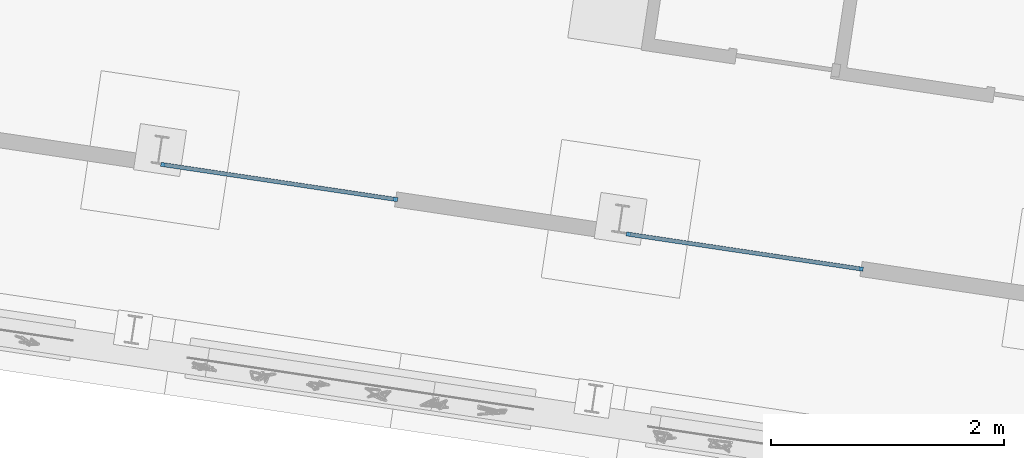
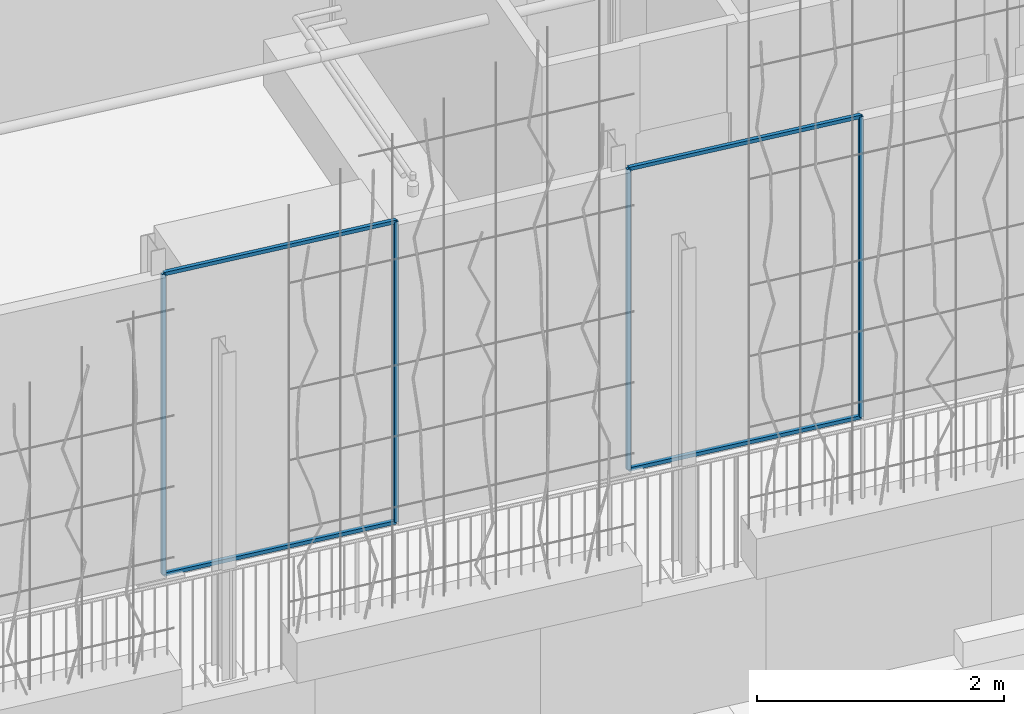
# One storey, part 63 of 142: 8 members.
"""IFC4 building model written with IfcOpenShell, lengths in metres."""

from ifc_helpers import new_model, si_unit, direction, frame, origin_with_axes, place, context, subcontext, project, spatial, rectangle, extrude, material, material_profile, profile_set, profile_usage, type_object, element, save


model = new_model("IFC4")

# Units and contexts
model_context = context("Model", 3, precision=1e-05, world=origin_with_axes(), true_north=direction((0.0, 1.0)))
body_context = subcontext(model_context, "Body", "Model", "MODEL_VIEW")
ifc_project = project(units=[si_unit("VOLUMEUNIT", "CUBIC_METRE"), si_unit("LENGTHUNIT", "METRE"), si_unit("AREAUNIT", "SQUARE_METRE")], contexts=[model_context])

# Site, building, storey
site_placement = place(None, origin_with_axes())
site = spatial("IfcSite", under=ifc_project, at=site_placement, Name="Lares · Rua das Mercês · artigo 4771")
building_placement = place(site_placement, frame((12.0, 10.2, 13.9), z_axis=(0.0, 0.0, 1.0), x_axis=(0.989015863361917, -0.147809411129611, 0.0)))
building = spatial("IfcBuilding", under=site, at=building_placement, Name="Casa Sobreposta")
storey_placement = place(building_placement, origin_with_axes())
storey = spatial("IfcBuildingStorey", under=building, at=storey_placement, Name="00 · Habitação e estacionamento", Elevation=13.9)

# Members
ifc_material = material(Name="Aço pintado / Stahl lackiert", Category="steel")
ifc_material_profile = material_profile(ifc_material, rectangle(XDim=0.035, YDim=0.035))
ifc_profile_set = profile_set([ifc_material_profile], Name="R0.035")
ifc_profile_usage_1 = profile_usage(ifc_profile_set)
member_type = type_object("IfcMemberType", Name="R0.035 / steel", PredefinedType="NOTDEFINED", material=ifc_profile_set)
member_1_placement = place(storey_placement, frame((4.04266666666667, 0.0, 0.0), z_axis=(0.0, 0.0, 1.0), x_axis=(1.0, 0.0, 0.0)))
element("IfcMember", 1, at=member_1_placement, inside=storey, type_object=member_type, material=ifc_profile_usage_1, Name="Folha de correr sul 2 · montante", context=body_context, shape_type="SweptSolid", body=[
    extrude(rectangle(XDim=0.035, YDim=0.035), origin_with_axes(), (0.0, 0.0, 1.0), 2.968),
])
ifc_profile_usage_2 = profile_usage(ifc_profile_set)
member_2_placement = place(storey_placement, frame((6.064, 0.0, 0.0), z_axis=(0.0, 0.0, 1.0), x_axis=(1.0, 0.0, 0.0)))
element("IfcMember", 2, at=member_2_placement, inside=storey, type_object=member_type, material=ifc_profile_usage_2, Name="Folha de correr sul 2 · montante", context=body_context, shape_type="SweptSolid", body=[
    extrude(rectangle(XDim=0.035, YDim=0.035), origin_with_axes(), (0.0, 0.0, 1.0), 2.968),
])
ifc_profile_usage_3 = profile_usage(ifc_profile_set)
member_3_placement = place(storey_placement, frame((4.04266666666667, 0.0, 0.0), z_axis=(1.0, 0.0, 0.0), x_axis=(0.0, -1.0, 0.0)))
element("IfcMember", 3, at=member_3_placement, inside=storey, type_object=member_type, material=ifc_profile_usage_3, Name="Folha de correr sul 2 · travessa", context=body_context, shape_type="SweptSolid", body=[
    extrude(rectangle(XDim=0.035, YDim=0.035), origin_with_axes(), (0.0, 0.0, 1.0), 2.02133333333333),
])
ifc_profile_usage_4 = profile_usage(ifc_profile_set)
member_4_placement = place(storey_placement, frame((4.04266666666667, 0.0, 2.968), z_axis=(1.0, 0.0, 0.0), x_axis=(0.0, -1.0, 0.0)))
element("IfcMember", 4, at=member_4_placement, inside=storey, type_object=member_type, material=ifc_profile_usage_4, Name="Folha de correr sul 2 · travessa", context=body_context, shape_type="SweptSolid", body=[
    extrude(rectangle(XDim=0.035, YDim=0.035), origin_with_axes(), (0.0, 0.0, 1.0), 2.02133333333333),
])
ifc_profile_usage_5 = profile_usage(ifc_profile_set)
member_5_placement = place(storey_placement, frame((8.08533333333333, 0.0, 0.0), z_axis=(0.0, 0.0, 1.0), x_axis=(1.0, 0.0, 0.0)))
element("IfcMember", 5, at=member_5_placement, inside=storey, type_object=member_type, material=ifc_profile_usage_5, Name="Folha de correr sul 4 · montante", context=body_context, shape_type="SweptSolid", body=[
    extrude(rectangle(XDim=0.035, YDim=0.035), origin_with_axes(), (0.0, 0.0, 1.0), 2.968),
])
ifc_profile_usage_6 = profile_usage(ifc_profile_set)
member_6_placement = place(storey_placement, frame((10.1066666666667, 0.0, 0.0), z_axis=(0.0, 0.0, 1.0), x_axis=(1.0, 0.0, 0.0)))
element("IfcMember", 6, at=member_6_placement, inside=storey, type_object=member_type, material=ifc_profile_usage_6, Name="Folha de correr sul 4 · montante", context=body_context, shape_type="SweptSolid", body=[
    extrude(rectangle(XDim=0.035, YDim=0.035), origin_with_axes(), (0.0, 0.0, 1.0), 2.968),
])
ifc_profile_usage_7 = profile_usage(ifc_profile_set)
member_7_placement = place(storey_placement, frame((8.08533333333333, 0.0, 0.0), z_axis=(1.0, 0.0, 0.0), x_axis=(0.0, -1.0, 0.0)))
element("IfcMember", 7, at=member_7_placement, inside=storey, type_object=member_type, material=ifc_profile_usage_7, Name="Folha de correr sul 4 · travessa", context=body_context, shape_type="SweptSolid", body=[
    extrude(rectangle(XDim=0.035, YDim=0.035), origin_with_axes(), (0.0, 0.0, 1.0), 2.02133333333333),
])
ifc_profile_usage_8 = profile_usage(ifc_profile_set)
member_8_placement = place(storey_placement, frame((8.08533333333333, 0.0, 2.968), z_axis=(1.0, 0.0, 0.0), x_axis=(0.0, -1.0, 0.0)))
element("IfcMember", 8, at=member_8_placement, inside=storey, type_object=member_type, material=ifc_profile_usage_8, Name="Folha de correr sul 4 · travessa", context=body_context, shape_type="SweptSolid", body=[
    extrude(rectangle(XDim=0.035, YDim=0.035), origin_with_axes(), (0.0, 0.0, 1.0), 2.02133333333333),
])

save(model, "model.ifc")
